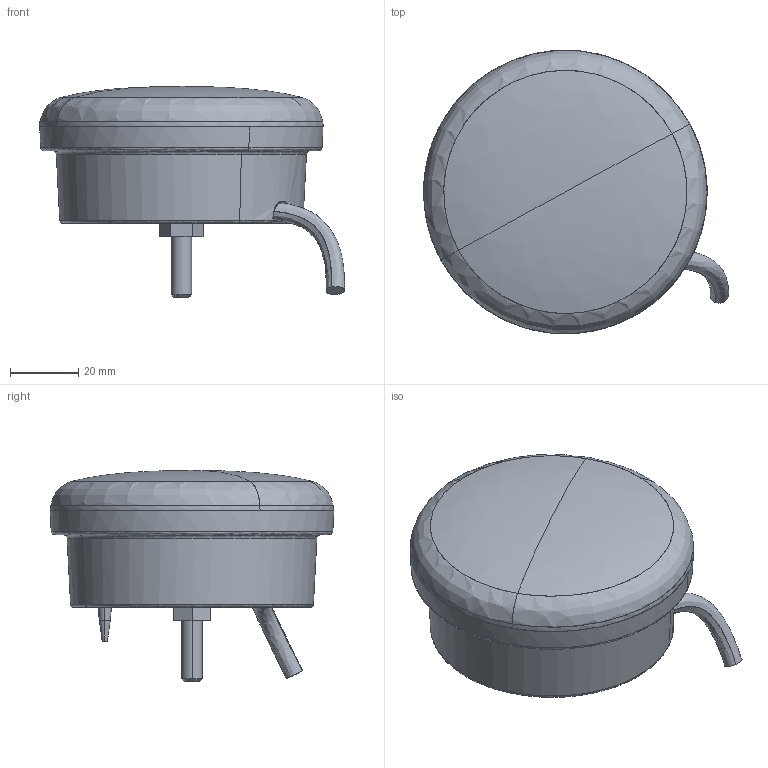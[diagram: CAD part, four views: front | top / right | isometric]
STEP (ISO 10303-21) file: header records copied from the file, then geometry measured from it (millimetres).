
FILE_DESCRIPTION(('CATIA V5 STEP Exchange','CAx-IF Rec.Pracs.--- Model Styling and Organization---1.5--- 2016-08-15','CAx-IF Rec.Pracs.---Supplemental Geometry---1.0---2011-11-01','CAx-IF Rec.Pracs.--- Composite Materials ---1.1---2010-07-15'),'2;1');
FILE_NAME('E:\tmp\ddx\2011221\HELLA_3D_data_LED-permanent_signal_83mm.stp','2022-01-18T07:49:06+00:00',('none'),('none'),'CATIA Version 5-6 Release 2020 SP3 HF9','CATIA V5 STEP AP214 Edition 3 v2','none');
FILE_SCHEMA(('AUTOMOTIVE_DESIGN { 1 0 10303 214 3 1 1 1 }'));
Products named in the file (1): 10000705013_D10_001
Bounding box: 89.22 x 82.94 x 61.7 mm (x, y, z)
Surface area: 35359.1 mm2 (no closed solid volume)
Topology: 0 solids, 505 shells, 505 faces, 2537 edges, 2545 vertices
Faces by surface type: bspline 336, plane 169
Entity records: 40729 total; most frequent: CARTESIAN_POINT 26558, B_SPLINE_CURVE_WITH_KNOTS 2531, ORIENTED_EDGE 2513, EDGE_CURVE 2513, VERTEX_POINT 2513, EDGE_LOOP 521, STYLED_ITEM 520, OPEN_SHELL 505
